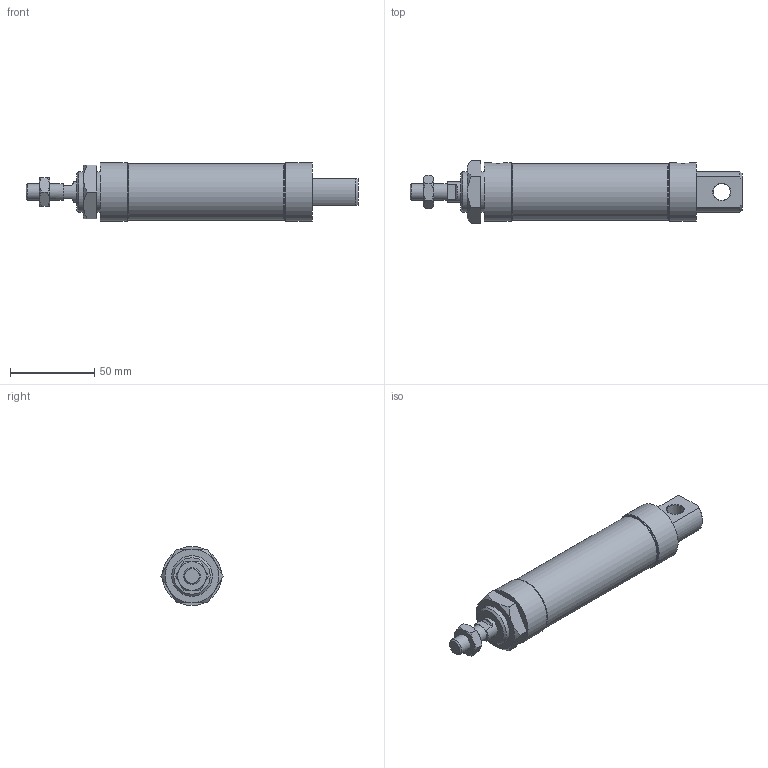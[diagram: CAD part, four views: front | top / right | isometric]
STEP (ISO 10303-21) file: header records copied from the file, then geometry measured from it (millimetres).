
FILE_DESCRIPTION(/* description */ ('STEP AP203'),/* implementation_level */ '2;1');
FILE_NAME(/* name */ 'RAC32X50-0-S()(0)',/* time_stamp */ '2026-05-17T11:49:52+02:00',/* author */ ('License CC BY-ND 4.0'),/* organization */ ('CADENAS'),/* preprocessor_version */ 'ST-DEVELOPER v20',/* originating_system */ 'PARTsolutions',/* authorisation */ ' ');
FILE_SCHEMA (('CONFIG_CONTROL_DESIGN'));
Length unit declared in the file: millimetre
Products named in the file (3): RAC32X50-0-S()(0); C32X50()_body; 32x50_rod
Assembly tree (2 placements, depth 2):
  RAC32X50-0-S()(0)
    C32X50()_body
    32x50_rod
Bounding box: 197 x 36.95 x 35 mm (x, y, z)
Volume: 97646.4 mm3; surface area: 39163.2 mm2
Topology: 2 solids, 2 shells, 93 faces, 197 edges, 121 vertices
Faces by surface type: plane 43, cone 29, cylinder 21
Full cylindrical faces by diameter (mm): 2 x2, 8.566 x2, 10 x3, 12 x2, 16 x1, 24 x2, 32 x2, 33.6 x3, 35 x2
Entity records: 2437 total; most frequent: CARTESIAN_POINT 561, DIRECTION 384, ORIENTED_EDGE 320, AXIS2_PLACEMENT_3D 172, EDGE_CURVE 160, EDGE_LOOP 141, FACE_BOUND 141, VERTEX_POINT 113
